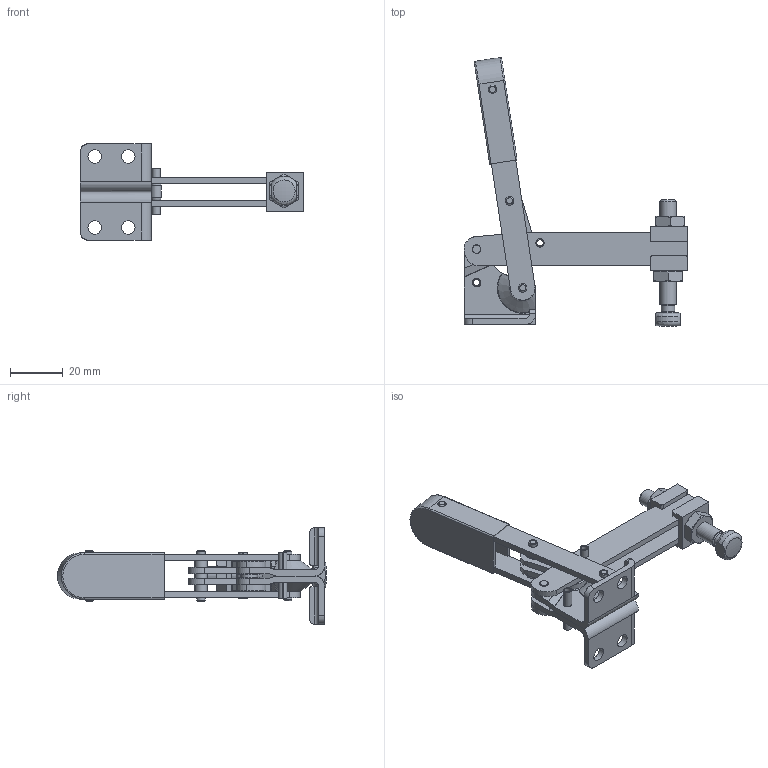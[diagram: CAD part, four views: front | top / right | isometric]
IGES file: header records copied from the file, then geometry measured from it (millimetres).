
Global section: file name: No Iges File Name specified; native system: AutoDesk Inventor R9; preprocessor: AutoDesk Inventor Iges Exporter R9; author: No Author specified; organization: No Organization specified; date: 20050607.183533; units: inch
Bounding box: 84.94 x 102 x 36.53 mm (x, y, z)
Surface area: 24714.1 mm2 (no closed solid volume)
Topology: 0 solids, 0 shells, 321 faces, 1416 edges, 1348 vertices
Faces by surface type: revolution 146, plane 129, bspline 46
